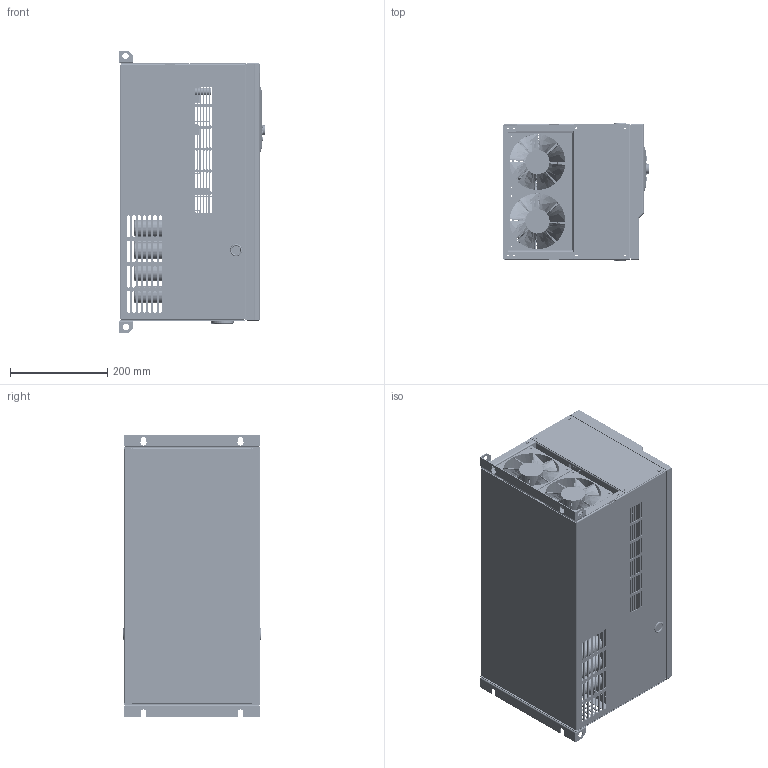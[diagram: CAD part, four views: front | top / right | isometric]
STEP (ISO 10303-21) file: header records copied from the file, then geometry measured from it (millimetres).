
FILE_DESCRIPTION(('STEP AP203'), '1');
FILE_NAME('Ïðåîáðàçîâàòåëü ÷àñòîòû _ LCI-G75_P90-4', '', ('UNSPECIFIED'), ('UNSPECIFIED'), 'C3D Converter', 'C3D Toolkit', '');
FILE_SCHEMA(('CONFIG_CONTROL_DESIGN'));
Length unit declared in the file: millimetre
Products named in the file (50): LCI-G75_P90-4; LCI-G75; LCI-MF-B; LCI-KP
Assembly tree (73 placements, depth 2):
  LCI-G75_P90-4
    LCI-G75
    LCI-G75  x2
    LCI-G75  x2
    LCI-G75  x2
    LCI-G75
    LCI-G75
    LCI-G75
    LCI-G75
    LCI-G75
    LCI-G75  x2
    LCI-G75
    LCI-G75  x3
    LCI-G75
    LCI-G75
    LCI-G75
    LCI-G75
    LCI-G75
    LCI-G75
    LCI-G75
    LCI-G75
    LCI-G75
    LCI-G75
    LCI-G75
    LCI-G75
    LCI-G75
    LCI-G75
    LCI-G75
    LCI-G75
    LCI-G75
    LCI-G75
    LCI-G75
    LCI-G75
    LCI-G75
    LCI-G75
    LCI-G75
    LCI-G75
    LCI-G75
    LCI-G75
    LCI-G75
    LCI-MF-B
    LCI-KP
    LCI-G75  x2
    LCI-G75
    LCI-G75  x2
    LCI-G75
    LCI-G75
    LCI-G75  x7
    LCI-G75  x9
    LCI-G75  x3
Bounding box: 302.1 x 284 x 580.9 mm (x, y, z)
Volume: 6433777.2 mm3; surface area: 5152539.7 mm2
Topology: 74 solids, 74 shells, 5099 faces, 13380 edges, 8496 vertices
Faces by surface type: plane 3171, cylinder 1386, extrusion 356, bspline 84, torus 74, cone 15, sphere 13
Full cylindrical faces by diameter (mm): 2.5 x26, 3.5 x42, 3.7 x4, 3.9 x3, 4 x9, 4.4 x16, 4.5 x63, 4.8 x8, 5 x14, 5.2 x15, 5.3 x4, 5.5 x34, 5.9 x10, 6 x2, 6.5 x9, 6.8 x2, 6.9 x8, 7 x41, 7.5 x18, 7.8 x1, 8 x12, 8.6 x9, 8.7 x2, 8.8 x4, 8.9 x1, 13 x4, 16.2 x2, 18 x4, 20 x5, 21 x1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
Entity records: 142170 total; most frequent: CARTESIAN_POINT 30760, ORIENTED_EDGE 21262, DIRECTION 20937, EDGE_CURVE 10631, VECTOR 7547, LINE 7315, VERTEX_POINT 6965, AXIS2_PLACEMENT_3D 6695
